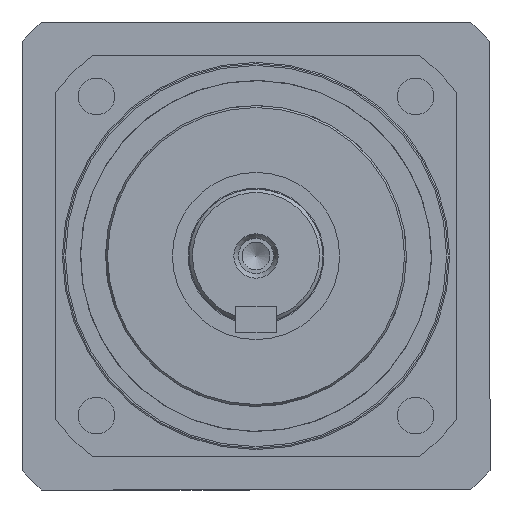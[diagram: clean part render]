
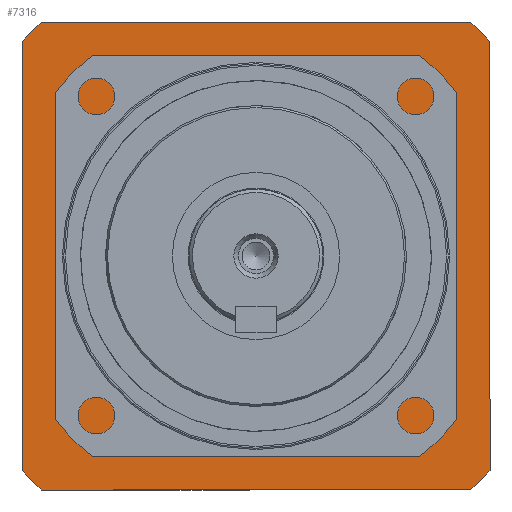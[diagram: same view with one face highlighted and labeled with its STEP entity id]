
A CAD part, left-side view. The second image highlights one B-rep face of the part: STEP entity #7316.
In plain terms, the highlighted planar face has unit normal (-1, 0, 0).
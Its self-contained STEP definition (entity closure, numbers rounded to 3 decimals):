
#775=FACE_BOUND('',#2371,.T.);
#1020=LINE('',#13766,#1304);
#1024=LINE('',#13775,#1308);
#1028=LINE('',#13784,#1312);
#1032=LINE('',#13793,#1316);
#1304=VECTOR('',#11148,10.);
#1308=VECTOR('',#11154,10.);
#1312=VECTOR('',#11160,10.);
#1316=VECTOR('',#11166,10.);
#1457=PLANE('',#8810);
#1841=FACE_OUTER_BOUND('',#2370,.T.);
#2370=EDGE_LOOP('',(#6744,#6745,#6746,#6747,#6748,#6749,#6750,#6751));
#2371=EDGE_LOOP('',(#6752,#6753));
#3029=CIRCLE('',#8790,95.);
#3031=CIRCLE('',#8793,95.);
#3034=CIRCLE('',#8797,95.);
#3041=CIRCLE('',#8808,50.);
#3042=CIRCLE('',#8809,50.);
#3043=CIRCLE('',#8811,95.);
#3831=VERTEX_POINT('',#13764);
#3832=VERTEX_POINT('',#13765);
#3835=VERTEX_POINT('',#13773);
#3836=VERTEX_POINT('',#13774);
#3839=VERTEX_POINT('',#13782);
#3840=VERTEX_POINT('',#13783);
#3843=VERTEX_POINT('',#13791);
#3844=VERTEX_POINT('',#13792);
#3852=VERTEX_POINT('',#13825);
#3853=VERTEX_POINT('',#13826);
#4802=EDGE_CURVE('',#3831,#3832,#1020,.T.);
#4806=EDGE_CURVE('',#3835,#3836,#1024,.T.);
#4810=EDGE_CURVE('',#3839,#3840,#1028,.T.);
#4814=EDGE_CURVE('',#3843,#3844,#1032,.T.);
#4818=EDGE_CURVE('',#3835,#3844,#3029,.T.);
#4820=EDGE_CURVE('',#3831,#3840,#3031,.T.);
#4823=EDGE_CURVE('',#3839,#3836,#3034,.T.);
#4832=EDGE_CURVE('',#3852,#3853,#3041,.T.);
#4833=EDGE_CURVE('',#3853,#3852,#3042,.T.);
#4835=EDGE_CURVE('',#3843,#3832,#3043,.T.);
#6744=ORIENTED_EDGE('',*,*,#4802,.T.);
#6745=ORIENTED_EDGE('',*,*,#4835,.F.);
#6746=ORIENTED_EDGE('',*,*,#4814,.T.);
#6747=ORIENTED_EDGE('',*,*,#4818,.F.);
#6748=ORIENTED_EDGE('',*,*,#4806,.T.);
#6749=ORIENTED_EDGE('',*,*,#4823,.F.);
#6750=ORIENTED_EDGE('',*,*,#4810,.T.);
#6751=ORIENTED_EDGE('',*,*,#4820,.F.);
#6752=ORIENTED_EDGE('',*,*,#4832,.T.);
#6753=ORIENTED_EDGE('',*,*,#4833,.T.);
#7316=ADVANCED_FACE('',(#1841,#775),#1457,.T.);
#8790=AXIS2_PLACEMENT_3D('',#13800,#11172,#11173);
#8793=AXIS2_PLACEMENT_3D('',#13803,#11178,#11179);
#8797=AXIS2_PLACEMENT_3D('',#13807,#11186,#11187);
#8808=AXIS2_PLACEMENT_3D('',#13827,#11210,#11211);
#8809=AXIS2_PLACEMENT_3D('',#13828,#11212,#11213);
#8810=AXIS2_PLACEMENT_3D('',#13830,#11215,#11216);
#8811=AXIS2_PLACEMENT_3D('',#13831,#11217,#11218);
#11148=DIRECTION('',(0.,0.,-1.));
#11154=DIRECTION('',(0.,0.,1.));
#11160=DIRECTION('',(0.,1.,0.));
#11166=DIRECTION('',(0.,-1.,0.));
#11172=DIRECTION('center_axis',(1.,0.,0.));
#11173=DIRECTION('ref_axis',(0.,1.,0.));
#11178=DIRECTION('center_axis',(1.,0.,0.));
#11179=DIRECTION('ref_axis',(0.,1.,0.));
#11186=DIRECTION('center_axis',(1.,0.,0.));
#11187=DIRECTION('ref_axis',(0.,1.,0.));
#11210=DIRECTION('center_axis',(1.,0.,0.));
#11211=DIRECTION('ref_axis',(0.,1.,0.));
#11212=DIRECTION('center_axis',(1.,0.,0.));
#11213=DIRECTION('ref_axis',(0.,1.,0.));
#11215=DIRECTION('center_axis',(-1.,0.,0.));
#11216=DIRECTION('ref_axis',(0.,0.,1.));
#11217=DIRECTION('center_axis',(1.,0.,0.));
#11218=DIRECTION('ref_axis',(0.,1.,0.));
#13764=CARTESIAN_POINT('',(5.21,70.,64.226));
#13765=CARTESIAN_POINT('',(5.21,70.,-64.226));
#13766=CARTESIAN_POINT('',(5.21,70.,-35.707));
#13773=CARTESIAN_POINT('',(5.21,-70.,-64.226));
#13774=CARTESIAN_POINT('',(5.21,-70.,64.226));
#13775=CARTESIAN_POINT('',(5.21,-70.,35.707));
#13782=CARTESIAN_POINT('',(5.21,-64.226,70.));
#13783=CARTESIAN_POINT('',(5.21,64.226,70.));
#13784=CARTESIAN_POINT('',(5.21,71.957,70.));
#13791=CARTESIAN_POINT('',(5.21,64.226,-70.));
#13792=CARTESIAN_POINT('',(5.21,-64.226,-70.));
#13793=CARTESIAN_POINT('',(5.21,0.543,-70.));
#13800=CARTESIAN_POINT('Origin',(5.21,0.,0.));
#13803=CARTESIAN_POINT('Origin',(5.21,0.,0.));
#13807=CARTESIAN_POINT('Origin',(5.21,0.,0.));
#13825=CARTESIAN_POINT('',(5.21,50.,0.));
#13826=CARTESIAN_POINT('',(5.21,-50.,0.));
#13827=CARTESIAN_POINT('Origin',(5.21,0.,0.));
#13828=CARTESIAN_POINT('Origin',(5.21,0.,0.));
#13830=CARTESIAN_POINT('Origin',(5.21,72.5,0.));
#13831=CARTESIAN_POINT('Origin',(5.21,0.,0.));
